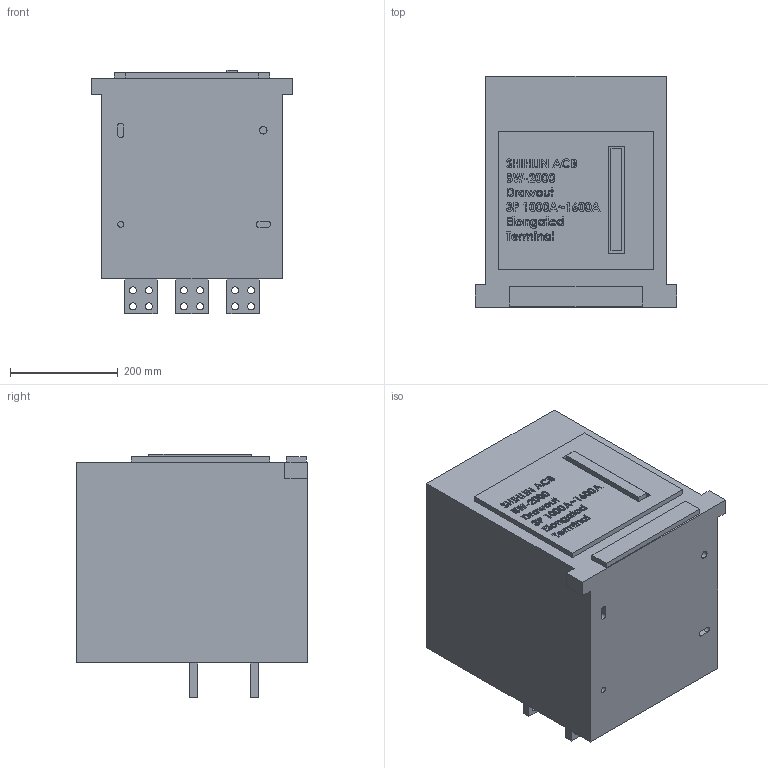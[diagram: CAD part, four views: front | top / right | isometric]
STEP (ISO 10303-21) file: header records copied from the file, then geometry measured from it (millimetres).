
FILE_DESCRIPTION (( 'STEP AP203' ), '1' );
FILE_NAME ('BW-2000-Drawout-3P-1000-1600A-Elongated Terminal.STEP', '2016-11-03T01:05:09', ( '' ), ( '' ), 'SwSTEP 2.0', 'SolidWorks 2015', '' );
FILE_SCHEMA (( 'CONFIG_CONTROL_DESIGN' ));
Products named in the file (1): BW-2000-Drawout-3P-1000-1600A-Elongated Terminal
Bounding box: 375 x 430 x 453.5 mm (x, y, z)
Volume: 54934292.7 mm3; surface area: 995999.8 mm2
Topology: 1 solids, 1 shells, 805 faces, 2121 edges, 1414 vertices
Faces by surface type: plane 460, bspline 288, cylinder 57
Entity records: 40466 total; most frequent: CARTESIAN_POINT 22221, ORIENTED_EDGE 4242, DIRECTION 2695, EDGE_CURVE 2121, LINE 1431, VECTOR 1431, VERTEX_POINT 1414, EDGE_LOOP 949
